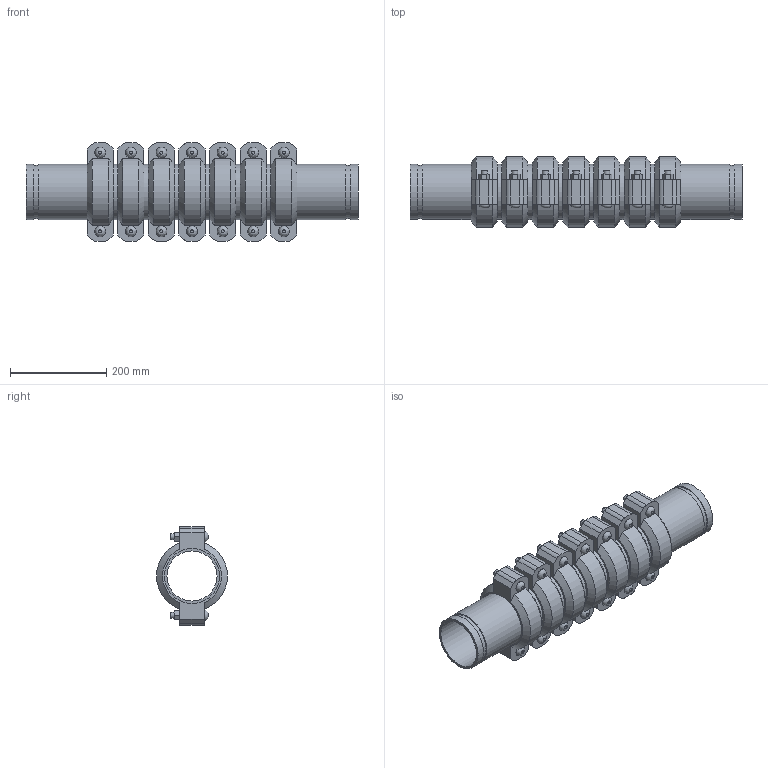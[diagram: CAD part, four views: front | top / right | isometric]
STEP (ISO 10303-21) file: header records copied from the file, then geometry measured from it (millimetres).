
FILE_DESCRIPTION(/* description */ ('VIC SS EXPANSION JOINT 7 COUPLINGS NEUTRAL STYLE 155P (OGS) (POTABLE WATER) ','CAx-IF Rec.Pracs.---Representation and Presentation of Product Manufacturing Information (PMI)---4.0---2014-10-13'),/* implementation_level */ '2;1');
FILE_NAME(/* name */ 'C:\Users\kkamble\AppData\Roaming\Autodesk\ApplicationPlugins\Victaulic.Temp\A807\Victaulic_SS_Expansion Joint_Neutral_7 Couplings_Style 155P (OGS)-Potable Water_7 Coup_Neut_4 (100).stp',/* time_stamp */ '2021-07-16T16:37:24+05:00',/* author */ ('kkamble'),/* organization */ ('Victaulic'),/* preprocessor_version */ 'ST-DEVELOPER v17.2',/* originating_system */ 'Autodesk Inventor 2019',/* authorisation */ '');
FILE_SCHEMA (('AP242_MANAGED_MODEL_BASED_3D_ENGINEERING_MIM_LF { 1 0 10303 442 1 1 4 }'));
Length unit declared in the file: inch
Products named in the file (4): 155P-04.0; Nipple-04.0; Nipple-04.0_1; 075-04.0
Assembly tree (15 placements, depth 2):
  155P-04.0
    Nipple-04.0  x2
    Nipple-04.0_1  x6
    075-04.0  x7
Bounding box: 689.1 x 147.32 x 203.96 mm (x, y, z)
Volume: 4450531.6 mm3; surface area: 1053627.7 mm2
Topology: 15 solids, 29 shells, 495 faces, 1171 edges, 822 vertices
Faces by surface type: plane 300, cylinder 153, cone 28, bspline 14
Full cylindrical faces by diameter (mm): 12.7 x28, 14.605 x14, 103.988 x8, 107.95 x7, 110.084 x16, 114.3 x38
Entity records: 2833 total; most frequent: CARTESIAN_POINT 499, DIRECTION 473, ORIENTED_EDGE 386, EDGE_CURVE 193, AXIS2_PLACEMENT_3D 190, VERTEX_POINT 138, EDGE_LOOP 107, LINE 93
